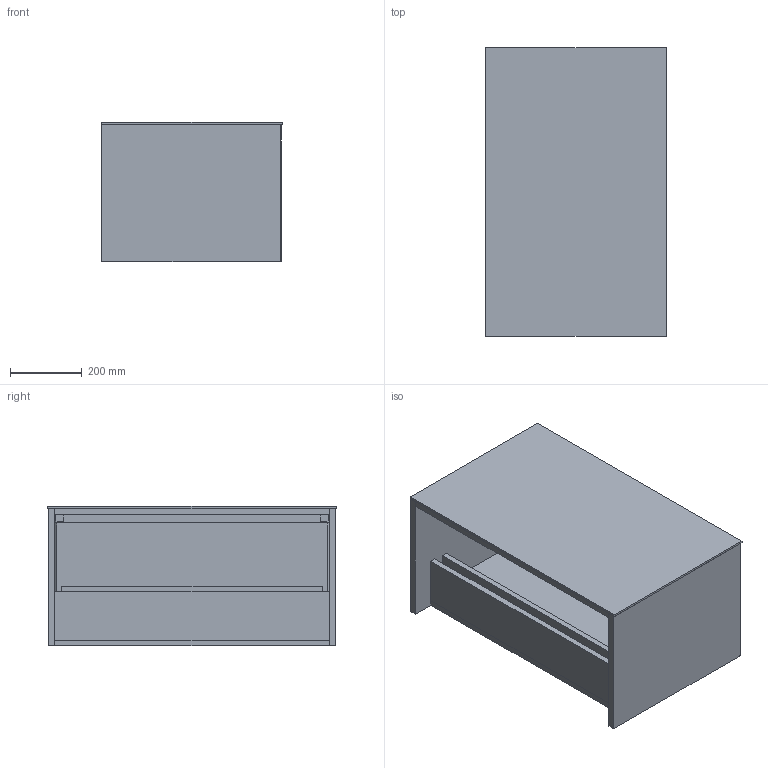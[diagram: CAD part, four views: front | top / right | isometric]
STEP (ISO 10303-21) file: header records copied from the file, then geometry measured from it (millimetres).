
FILE_DESCRIPTION(/* description */ (''),/* implementation_level */ '2;1');
FILE_NAME(/* name */ 'H41x10x',/* time_stamp */ '2025-03-13T09:53:14+01:00',/* author */ (''),/* organization */ (''),/* preprocessor_version */ 'ST-DEVELOPER v16.5',/* originating_system */ 'Rhino 7.38',/* authorisation */ '');
FILE_SCHEMA (('AUTOMOTIVE_DESIGN'));
Length unit declared in the file: centimetre
Products named in the file (1): Document
Bounding box: 504 x 805 x 390 mm (x, y, z)
Volume: 34071100.1 mm3; surface area: 4938331.8 mm2
Topology: 12 solids, 12 shells, 121 faces, 274 edges, 182 vertices
Faces by surface type: plane 93, cylinder 28
Entity records: 2999 total; most frequent: CARTESIAN_POINT 979, ORIENTED_EDGE 548, EDGE_CURVE 274, B_SPLINE_CURVE_WITH_KNOTS 214, VERTEX_POINT 182, EDGE_LOOP 130, DIRECTION 125, AXIS2_PLACEMENT_3D 123
